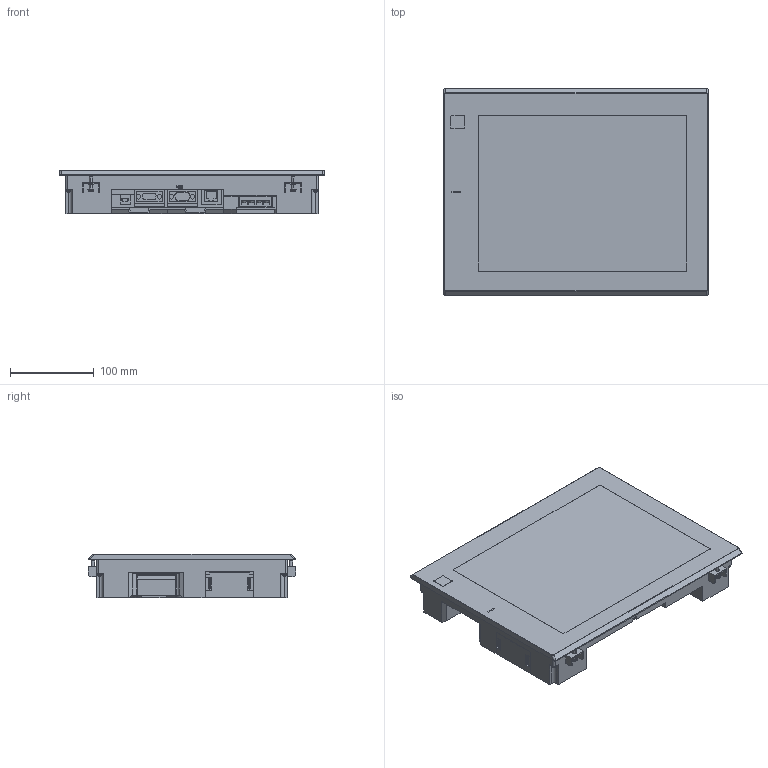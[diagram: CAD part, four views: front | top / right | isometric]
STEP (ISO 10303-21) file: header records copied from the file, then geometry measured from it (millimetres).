
FILE_DESCRIPTION((''),'2;1');
FILE_NAME('GT2712_ASM','2013-09-11T',('KW48605'),(''),'PRO/ENGINEER BY PARAMETRIC TECHNOLOGY CORPORATION, 2011490','PRO/ENGINEER BY PARAMETRIC TECHNOLOGY CORPORATION, 2011490','');
FILE_SCHEMA(('AUTOMOTIVE_DESIGN_CC2 { 1 2 10303 214 -1 1 5 2 }'));
Length unit declared in the file: millimetre
Products named in the file (6): GT2712; COVER_1; COVER_2; COVER_3; TORITUKE; GT2712_ASM
Assembly tree (9 placements, depth 2):
  GT2712_ASM
    GT2712
    COVER_1  x2
    COVER_2
    COVER_3
    TORITUKE  x4
Bounding box: 316 x 247 x 52.05 mm (x, y, z)
Volume: 3113428.8 mm3; surface area: 265100.5 mm2
Topology: 9 solids, 13 shells, 737 faces, 2031 edges, 1350 vertices
Faces by surface type: plane 478, cylinder 177, cone 32, sphere 26, torus 20, bspline 4
Entity records: 21767 total; most frequent: CARTESIAN_POINT 5230, ORIENTED_EDGE 3494, DIRECTION 3289, EDGE_CURVE 1747, VECTOR 1217, LINE 1217, VERTEX_POINT 1178, AXIS2_PLACEMENT_3D 1036
